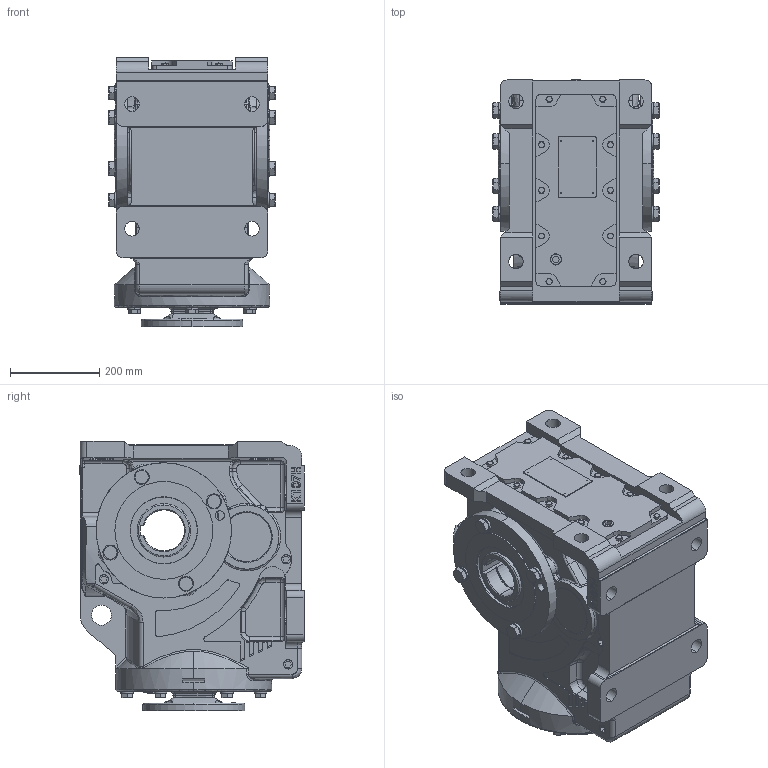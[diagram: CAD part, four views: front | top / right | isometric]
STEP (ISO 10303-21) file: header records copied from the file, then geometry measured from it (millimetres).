
FILE_DESCRIPTION (( 'STEP AP203' ), '1' );
FILE_NAME ('KHN107-182T.STEP', '2023-02-15T07:16:07', ( '' ), ( '' ), 'SwSTEP 2.0', 'SolidWorks 2012', '' );
FILE_SCHEMA (( 'CONFIG_CONTROL_DESIGN' ));
Products named in the file (1): KHN107-182T
Bounding box: 373.2 x 503.5 x 605 mm (x, y, z)
Volume: 68010748.6 mm3; surface area: 1846189.2 mm2
Topology: 1 solids, 48 shells, 2106 faces, 5254 edges, 3297 vertices
Faces by surface type: plane 928, cylinder 585, bspline 320, cone 273
Entity records: 85129 total; most frequent: CARTESIAN_POINT 36807, ORIENTED_EDGE 10388, DIRECTION 9506, EDGE_CURVE 5194, AXIS2_PLACEMENT_3D 3453, VERTEX_POINT 3297, LINE 2600, VECTOR 2600
